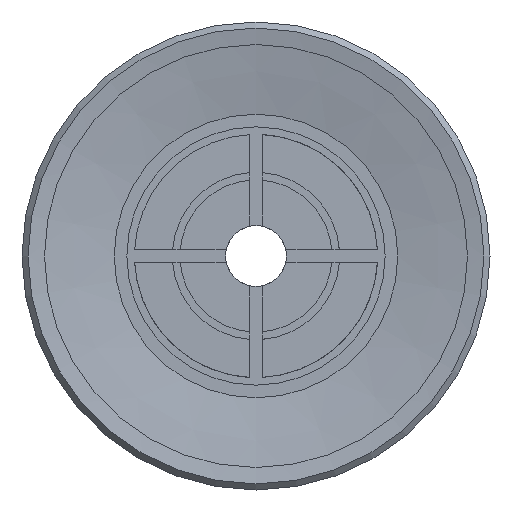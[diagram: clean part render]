
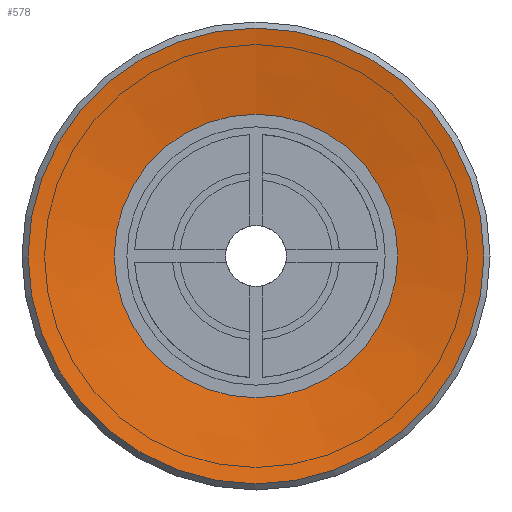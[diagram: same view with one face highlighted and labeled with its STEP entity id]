
A CAD part, front view. The second image highlights one B-rep face of the part: STEP entity #578.
In plain terms, the highlighted conical face has half-angle 80 degrees and reference radius 4.664 mm.
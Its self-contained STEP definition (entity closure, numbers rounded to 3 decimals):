
#578=ADVANCED_FACE('',(#935,#936),#937,.F.);
#935=FACE_BOUND('',#1376,.T.);
#936=FACE_OUTER_BOUND('',#1377,.T.);
#937=CONICAL_SURFACE('',#1378,4.664,1.396);
#1376=EDGE_LOOP('',(#2572));
#1377=EDGE_LOOP('',(#2573));
#1378=AXIS2_PLACEMENT_3D('',#2574,#2575,#2576);
#2572=ORIENTED_EDGE('',*,*,#3149,.F.);
#2573=ORIENTED_EDGE('',*,*,#3184,.T.);
#2574=CARTESIAN_POINT('',(0.0,0.5,0.0));
#2575=DIRECTION('',(-0.0,-1.0,0.));
#2576=DIRECTION('',(0.0,0.,-1.0));
#3149=EDGE_CURVE('',#3636,#3636,#3637,.T.);
#3184=EDGE_CURVE('',#3686,#3686,#3687,.T.);
#3636=VERTEX_POINT('',#4615);
#3637=CIRCLE('',#4616,4.664);
#3686=VERTEX_POINT('',#4699);
#3687=CIRCLE('',#4700,7.5);
#4615=CARTESIAN_POINT('',(0.0,0.5,-4.664));
#4616=AXIS2_PLACEMENT_3D('',#5490,#5491,#5492);
#4699=CARTESIAN_POINT('',(0.0,0.,-7.5));
#4700=AXIS2_PLACEMENT_3D('',#5558,#5559,#5560);
#5490=CARTESIAN_POINT('',(0.0,0.5,0.0));
#5491=DIRECTION('',(0.0,-1.0,0.));
#5492=DIRECTION('',(0.0,0.,-1.0));
#5558=CARTESIAN_POINT('',(0.0,0.0,0.0));
#5559=DIRECTION('',(0.0,-1.0,0.));
#5560=DIRECTION('',(0.0,0.,-1.0));
